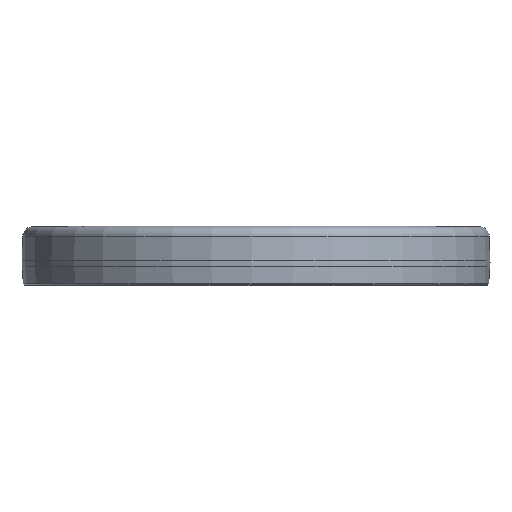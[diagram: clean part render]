
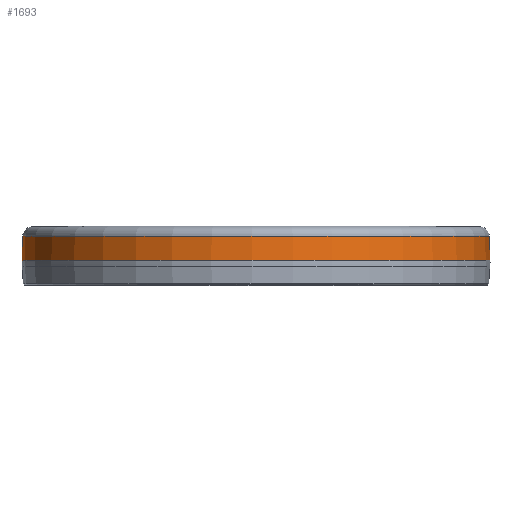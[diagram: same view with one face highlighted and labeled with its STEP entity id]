
A CAD part, top view. The second image highlights one B-rep face of the part: STEP entity #1693.
In plain terms, the highlighted conical face has half-angle 1.5 degrees and reference radius 34.813 mm.
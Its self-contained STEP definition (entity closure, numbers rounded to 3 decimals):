
#434 = VERTEX_POINT('',#435);
#435 = CARTESIAN_POINT('',(0.,20.993,
    34.801));
#436 = VERTEX_POINT('',#437);
#437 = CARTESIAN_POINT('',(0.,20.993,-34.801));
#478 = VERTEX_POINT('',#479);
#479 = CARTESIAN_POINT('',(0.,24.57,-34.707));
#480 = VERTEX_POINT('',#481);
#481 = CARTESIAN_POINT('',(0.,24.57,
    34.707));
#522 = EDGE_CURVE('',#480,#434,#523,.T.);
#523 = LINE('',#524,#525);
#524 = CARTESIAN_POINT('',(0.,20.533,
    34.813));
#525 = VECTOR('',#526,1.);
#526 = DIRECTION('',(0.,-1.,
    0.026));
#529 = EDGE_CURVE('',#478,#436,#530,.T.);
#530 = LINE('',#531,#532);
#531 = CARTESIAN_POINT('',(0.,20.533,-34.813));
#532 = VECTOR('',#533,1.);
#533 = DIRECTION('',(0.,-1.,-0.026));
#1693 = ADVANCED_FACE('',(#1694),#1712,.T.);
#1694 = FACE_BOUND('',#1695,.T.);
#1695 = EDGE_LOOP('',(#1696,#1697,#1704,#1705));
#1696 = ORIENTED_EDGE('',*,*,#522,.F.);
#1697 = ORIENTED_EDGE('',*,*,#1698,.T.);
#1698 = EDGE_CURVE('',#480,#478,#1699,.T.);
#1699 = CIRCLE('',#1700,34.707);
#1700 = AXIS2_PLACEMENT_3D('',#1701,#1702,#1703);
#1701 = CARTESIAN_POINT('',(0.,24.57,0.));
#1702 = DIRECTION('',(0.,-1.,0.));
#1703 = DIRECTION('',(0.,0.,1.));
#1704 = ORIENTED_EDGE('',*,*,#529,.T.);
#1705 = ORIENTED_EDGE('',*,*,#1706,.T.);
#1706 = EDGE_CURVE('',#436,#434,#1707,.T.);
#1707 = CIRCLE('',#1708,34.801);
#1708 = AXIS2_PLACEMENT_3D('',#1709,#1710,#1711);
#1709 = CARTESIAN_POINT('',(0.,20.993,0.));
#1710 = DIRECTION('',(0.,1.,0.));
#1711 = DIRECTION('',(0.,0.,-1.));
#1712 = CONICAL_SURFACE('',#1713,34.813,0.026);
#1713 = AXIS2_PLACEMENT_3D('',#1714,#1715,#1716);
#1714 = CARTESIAN_POINT('',(0.,20.533,0.));
#1715 = DIRECTION('',(-0.,-1.,-0.));
#1716 = DIRECTION('',(0.,0.,-1.));
